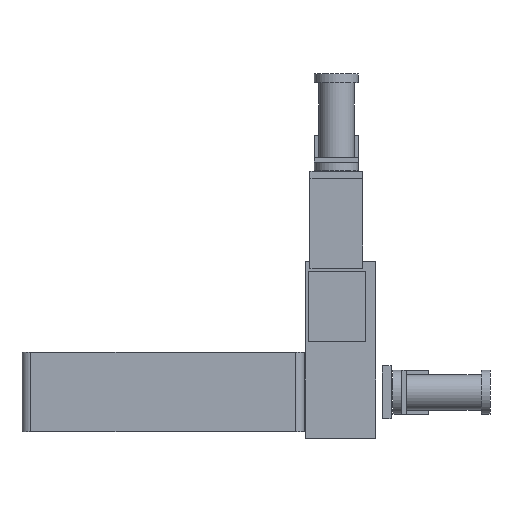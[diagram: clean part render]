
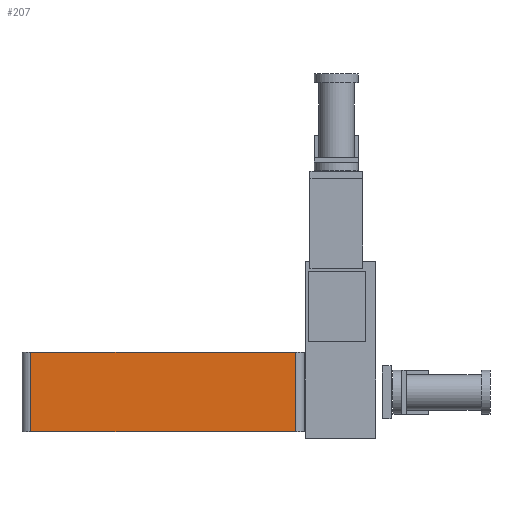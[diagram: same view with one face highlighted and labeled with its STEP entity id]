
A CAD part, top view. The second image highlights one B-rep face of the part: STEP entity #207.
In plain terms, the highlighted planar face has unit normal (0, 0, 1) as drawn and (0, -1, 0) by its records, which use the part's own axes.
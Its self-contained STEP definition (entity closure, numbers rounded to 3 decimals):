
#207=ADVANCED_FACE('',(#304),#257,.T.);
#257=PLANE('',#960);
#304=FACE_OUTER_BOUND('',#347,.T.);
#347=EDGE_LOOP('',(#586,#587,#588,#589));
#405=LINE('',#1270,#488);
#407=LINE('',#1274,#490);
#410=LINE('',#1282,#493);
#411=LINE('',#1286,#494);
#488=VECTOR('',#1034,1.);
#490=VECTOR('',#1038,1.);
#493=VECTOR('',#1047,1.);
#494=VECTOR('',#1052,1.);
#586=ORIENTED_EDGE('',*,*,#841,.F.);
#587=ORIENTED_EDGE('',*,*,#839,.F.);
#588=ORIENTED_EDGE('',*,*,#845,.F.);
#589=ORIENTED_EDGE('',*,*,#847,.F.);
#768=VERTEX_POINT('',#1264);
#771=VERTEX_POINT('',#1269);
#773=VERTEX_POINT('',#1275);
#775=VERTEX_POINT('',#1283);
#839=EDGE_CURVE('',#771,#768,#405,.T.);
#841=EDGE_CURVE('',#768,#773,#407,.T.);
#845=EDGE_CURVE('',#775,#771,#410,.T.);
#847=EDGE_CURVE('',#773,#775,#411,.T.);
#960=AXIS2_PLACEMENT_3D('',#1287,#1053,#1054);
#1034=DIRECTION('',(1.,0.,0.));
#1038=DIRECTION('',(0.,0.,-1.));
#1047=DIRECTION('',(0.,0.,1.));
#1052=DIRECTION('',(-1.,0.,0.));
#1053=DIRECTION('',(0.,-1.,0.));
#1054=DIRECTION('',(1.,0.,0.));
#1264=CARTESIAN_POINT('',(150.,-10.,45.));
#1269=CARTESIAN_POINT('',(-150.,-10.,45.));
#1270=CARTESIAN_POINT('',(0.,-10.,45.));
#1274=CARTESIAN_POINT('',(150.,-10.,0.));
#1275=CARTESIAN_POINT('',(150.,-10.,-45.));
#1282=CARTESIAN_POINT('',(-150.,-10.,0.));
#1283=CARTESIAN_POINT('',(-150.,-10.,-45.));
#1286=CARTESIAN_POINT('',(-150.,-10.,-45.));
#1287=CARTESIAN_POINT('',(-150.,-10.,0.));
